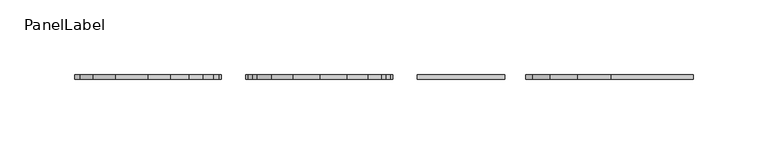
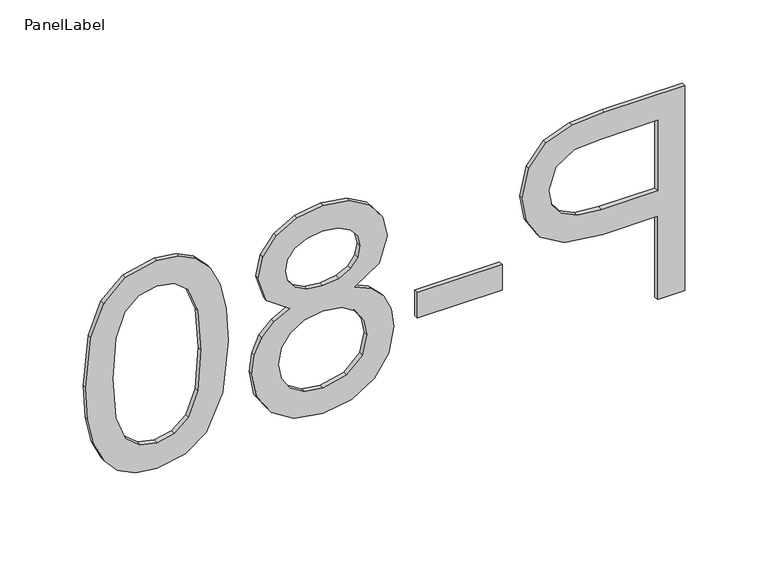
"""IFC4 building model written with IfcOpenShell, lengths in millimetres: fastener geometry, PanelLabel : Miranda."""

from ifc_helpers import new_model, si_unit, frame, origin, place, context, project, spatial, polyline, outline, extrude, source, transform, mapped, element, save


def panellabel_a96aa7af(model_context):
    return source(origin(), model_context, "Body", "SweptSolid", [
        extrude(outline(polyline([(1310.9113766, 202.8092308), (1460.9667612, 202.8092308), (1460.9667612, 147.1978846), (1459.5380112, 124.7775), (1452.5224823, 106.5517788), (1438.0151747, 94.7371154), (1417.554742, 90.2676923), (1399.8693814, 93.2854688), (1385.1331073, 102.3387981), (1375.1868093, 119.2685697), (1371.8713766, 145.9156731), (1371.8713766, 184.0523077), (1310.9113766, 184.0523077), (1310.9113766, 202.8092308)]), holes=[polyline([(1390.6282997, 184.0523077), (1390.6282997, 144.8166346), (1392.3501266, 128.1845192), (1397.5156073, 117.1941346), (1405.8041891, 111.0669952), (1416.8953189, 109.0246154), (1432.4283958, 113.8420673), (1440.9276266, 126.4993269), (1442.2098381, 145.25625), (1442.2098381, 184.0523077), (1390.6282997, 184.0523077)])]), frame((0.0, 77.7875, 0.0), z_axis=(0.0, 1.0, 0.0), x_axis=(0.0, 0.0, 1.0)), (0.0, 0.0, 1.0), 3.175),
        extrude(outline(polyline([(17.5846154, 80.9625), (76.2, 80.9625), (76.2, 77.7875), (17.5846154, 77.7875), (17.5846154, 80.9625)])), frame((0.0, 0.0, 1355.4590689), z_axis=(0.0, 0.0, 1.0), x_axis=(1.0, 0.0, 0.0)), (0.0, 0.0, 1.0), 18.7569231),
        extrude(outline(polyline([(1393.5590689, -26.1571154), (1405.2088766, -9.0670673), (1423.3430112, -3.5169231), (1438.006016, -6.5392788), (1450.122915, -15.6063462), (1458.2557997, -29.7015144), (1460.9667612, -47.8081731), (1458.1916891, -66.0247356), (1449.8664727, -80.3030769), (1437.557242, -89.535), (1422.8301266, -92.6123077), (1405.1539247, -87.1354327), (1393.5590689, -70.5216346), (1387.6105232, -82.0661178), (1378.8502708, -90.4691827), (1367.6996097, -95.5934495), (1354.5798381, -97.3015385), (1336.6471939, -93.9128365), (1321.828492, -83.7467308), (1311.8821939, -68.0487981), (1308.5667612, -48.0646154), (1311.8959319, -28.0804327), (1321.8834439, -12.3825), (1336.8441049, -2.2163942), (1355.0927227, 1.1723077), (1368.7207997, -0.6044712), (1379.930992, -5.9348077), (1388.3386362, -14.5439423), (1393.5590689, -26.1571154)]), holes=[polyline([(1422.793492, -22.2738462), (1414.6056554, -23.9361418), (1408.0663766, -28.9230288), (1403.7801266, -37.0879687), (1402.3513766, -48.2844231), (1403.7709679, -59.2198558), (1408.029742, -67.2611538), (1414.3492131, -72.2068269), (1421.9508958, -73.8553846), (1429.8410761, -72.151875), (1436.366617, -67.0413462), (1440.7490328, -58.8901442), (1442.2098381, -48.0646154), (1440.7810881, -37.1703966), (1436.4948381, -29.0329327), (1430.2120016, -23.9636178), (1422.793492, -22.2738462)]), polyline([(1355.7521458, -17.5846154), (1341.6295016, -20.716875), (1331.060415, -31.7988462), (1327.3236843, -48.2111538), (1329.2882155, -60.9783173), (1335.1818093, -70.5582692), (1344.1069174, -76.5480288), (1355.165992, -78.5446154), (1366.4128189, -76.4839183), (1375.5348381, -70.3018269), (1381.5795497, -60.5020673), (1383.5944535, -47.5883654), (1381.6070256, -34.9997957), (1375.644742, -25.5160096), (1366.6967372, -19.5674639), (1355.7521458, -17.5846154)])]), frame((0.0, 77.7875, 0.0), z_axis=(0.0, 1.0, 0.0), x_axis=(0.0, 0.0, 1.0)), (0.0, 0.0, 1.0), 3.175),
        extrude(outline(polyline([(1384.7301266, -113.7138462), (1408.7486963, -115.0922236), (1427.9040208, -119.2273558), (1442.4891771, -126.0780288), (1452.797242, -135.6030288), (1458.9243814, -147.8710457), (1460.9667612, -162.9507692), (1456.130992, -184.8582692), (1442.1915208, -199.9883654), (1419.9909439, -208.7806731), (1384.7301266, -212.1876923), (1360.8489367, -210.8230529), (1341.7394054, -206.7291346), (1327.1405112, -199.9196755), (1316.7912323, -190.4084135), (1310.622879, -178.1129207), (1308.5667612, -162.9507692), (1312.1386362, -143.4611538), (1322.8542612, -128.6607692), (1348.232891, -117.4505769), (1384.7301266, -113.7138462)]), holes=[polyline([(1384.7667612, -132.4707692), (1355.2621578, -134.6688462), (1338.1858477, -141.2630769), (1330.0392251, -151.0811538), (1327.3236843, -162.9507692), (1330.0483838, -174.8203846), (1338.2224823, -184.6384615), (1355.3079511, -191.2326923), (1384.7667612, -193.4307692), (1413.6073622, -191.3059615), (1430.8164727, -184.9315385), (1439.3614968, -175.1317788), (1442.2098381, -162.7309615), (1439.700367, -150.9895673), (1432.1719535, -141.5561538), (1413.8912804, -134.7421154), (1384.7667612, -132.4707692)])]), frame((0.0, 77.7875, 0.0), z_axis=(0.0, 1.0, 0.0), x_axis=(0.0, 0.0, 1.0)), (0.0, 0.0, 1.0), 3.175),
    ])


if __name__ == "__main__":
    model = new_model("IFC4")
    model_context = context("Model", 3, world=origin())
    ifc_project = project(units=[si_unit("LENGTHUNIT", "METRE", prefix="MILLI")], contexts=[model_context])
    site = spatial("IfcSite", under=ifc_project)
    building = spatial("IfcBuilding", under=site)
    placement = place(None, origin())
    panellabel_shape = panellabel_a96aa7af(model_context)
    element("IfcFastener", 1, ObjectType="PanelLabel : Miranda", at=placement, inside=building, context=model_context, shape_type="MappedRepresentation", body=[
        mapped(panellabel_shape, transform((0.0, 0.0, 0.0), x_axis=(1.0, 0.0, 0.0), y_axis=(0.0, 1.0, 0.0), z_axis=(0.0, 0.0, 1.0))),
    ])
    save(model, "model.ifc")
